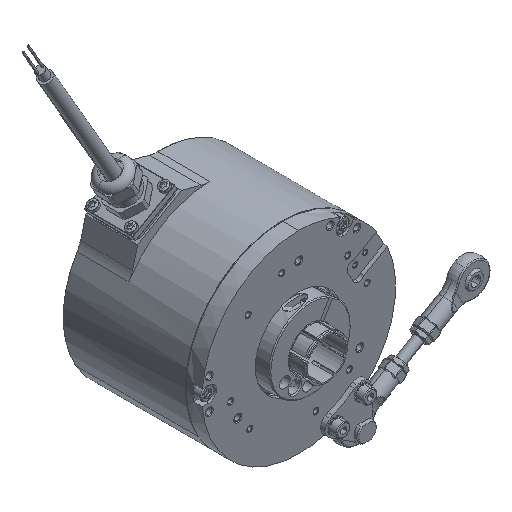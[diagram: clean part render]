
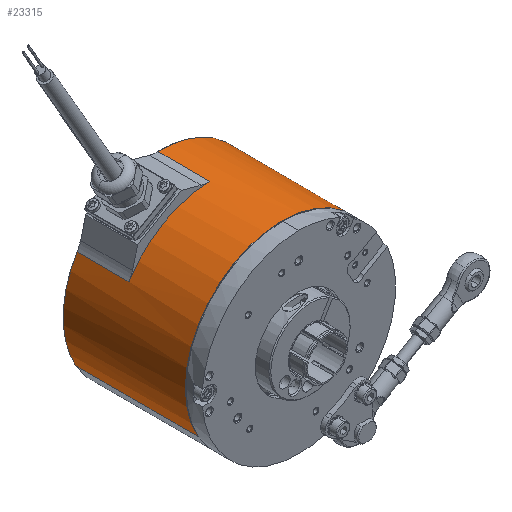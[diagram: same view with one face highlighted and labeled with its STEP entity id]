
A CAD part, isometric view. The second image highlights one B-rep face of the part: STEP entity #23315.
In plain terms, the highlighted cylindrical face has radius 50 mm (diameter 100 mm), a partial arc.
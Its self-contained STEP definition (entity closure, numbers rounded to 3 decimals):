
#1202 = CARTESIAN_POINT ( 'NONE',  ( -1.056, 71.8, 49.989 ) ) ;
#4915 = AXIS2_PLACEMENT_3D ( 'NONE', #10010, #10011, #10012 ) ;
#4919 = AXIS2_PLACEMENT_3D ( 'NONE', #10027, #10028, #10029 ) ;
#4951 = AXIS2_PLACEMENT_3D ( 'NONE', #10459, #10460, #10461 ) ;
#4952 = AXIS2_PLACEMENT_3D ( 'NONE', #10463, #10464, #10465 ) ;
#5543 = CARTESIAN_POINT ( 'NONE',  ( -42.764, 71.8, 25.909 ) ) ;
#5544 = CARTESIAN_POINT ( 'NONE',  ( -43.301, 71.8, -25. ) ) ;
#5547 = CARTESIAN_POINT ( 'NONE',  ( 43.301, 71.8, 25. ) ) ;
#5549 = CARTESIAN_POINT ( 'NONE',  ( -43.301, 8.7, -25. ) ) ;
#5550 = CARTESIAN_POINT ( 'NONE',  ( 43.301, 8.7, 25. ) ) ;
#5618 = CARTESIAN_POINT ( 'NONE',  ( -1.056, 45., 49.989 ) ) ;
#8178 = CIRCLE ( 'NONE', #4915, 50. ) ;
#8188 = CIRCLE ( 'NONE', #4919, 50. ) ;
#8328 = LINE ( 'NONE', #10451, #8334 ) ;
#8333 = CIRCLE ( 'NONE', #4951, 50. ) ;
#8334 = VECTOR ( 'NONE', #10456, 1000. ) ;
#8335 = LINE ( 'NONE', #10455, #8337 ) ;
#8336 = CIRCLE ( 'NONE', #4952, 50. ) ;
#8337 = VECTOR ( 'NONE', #10450, 1000. ) ;
#8338 = LINE ( 'NONE', #10457, #8340 ) ;
#8339 = LINE ( 'NONE', #10466, #8342 ) ;
#8340 = VECTOR ( 'NONE', #10458, 1000. ) ;
#8342 = VECTOR ( 'NONE', #10467, 1000. ) ;
#10010 = CARTESIAN_POINT ( 'NONE',  ( 0., 71.8, 0. ) ) ;
#10011 = DIRECTION ( 'NONE',  ( 0., -1., 0. ) ) ;
#10012 = DIRECTION ( 'NONE',  ( 0.866, 0., 0.5 ) ) ;
#10027 = CARTESIAN_POINT ( 'NONE',  ( 0., 8.7, 0. ) ) ;
#10028 = DIRECTION ( 'NONE',  ( 0., 1., 0. ) ) ;
#10029 = DIRECTION ( 'NONE',  ( -0.866, 0., -0.5 ) ) ;
#10450 = DIRECTION ( 'NONE',  ( 0., -1., 0. ) ) ;
#10451 = CARTESIAN_POINT ( 'NONE',  ( 43.301, 58.5, 25. ) ) ;
#10455 = CARTESIAN_POINT ( 'NONE',  ( -1.056, 58.5, 49.989 ) ) ;
#10456 = DIRECTION ( 'NONE',  ( 0., 1., 0. ) ) ;
#10457 = CARTESIAN_POINT ( 'NONE',  ( -42.764, 58.5, 25.909 ) ) ;
#10458 = DIRECTION ( 'NONE',  ( 0., 1., 0. ) ) ;
#10459 = CARTESIAN_POINT ( 'NONE',  ( 0., 71.8, 0. ) ) ;
#10460 = DIRECTION ( 'NONE',  ( 0., -1., 0. ) ) ;
#10461 = DIRECTION ( 'NONE',  ( 0.866, 0., 0.5 ) ) ;
#10463 = CARTESIAN_POINT ( 'NONE',  ( 0., 45., 0. ) ) ;
#10464 = DIRECTION ( 'NONE',  ( 0., -1., 0. ) ) ;
#10465 = DIRECTION ( 'NONE',  ( 0.866, 0., 0.5 ) ) ;
#10466 = CARTESIAN_POINT ( 'NONE',  ( -43.301, 58.5, -25. ) ) ;
#10467 = DIRECTION ( 'NONE',  ( 0., 1., 0. ) ) ;
#10862 = VERTEX_POINT ( 'NONE', #1202 ) ;
#11399 = VERTEX_POINT ( 'NONE', #14633 ) ;
#14633 = CARTESIAN_POINT ( 'NONE',  ( -42.764, 45., 25.909 ) ) ;
#23315 = ADVANCED_FACE ( 'NONE', ( #35350 ), #35359, .T. ) ;
#24600 = VERTEX_POINT ( 'NONE', #5543 ) ;
#24601 = VERTEX_POINT ( 'NONE', #5544 ) ;
#24604 = VERTEX_POINT ( 'NONE', #5547 ) ;
#24606 = VERTEX_POINT ( 'NONE', #5549 ) ;
#24607 = VERTEX_POINT ( 'NONE', #5550 ) ;
#24675 = VERTEX_POINT ( 'NONE', #5618 ) ;
#26499 = ORIENTED_EDGE ( 'NONE', *, *, #30036, .T. ) ;
#26500 = ORIENTED_EDGE ( 'NONE', *, *, #30124, .T. ) ;
#26501 = ORIENTED_EDGE ( 'NONE', *, *, #30125, .T. ) ;
#26502 = ORIENTED_EDGE ( 'NONE', *, *, #30126, .T. ) ;
#26503 = ORIENTED_EDGE ( 'NONE', *, *, #30127, .T. ) ;
#26504 = ORIENTED_EDGE ( 'NONE', *, *, #30128, .T. ) ;
#26505 = ORIENTED_EDGE ( 'NONE', *, *, #30029, .T. ) ;
#26506 = ORIENTED_EDGE ( 'NONE', *, *, #30129, .F. ) ;
#29128 = EDGE_LOOP ( 'NONE', ( #26499, #26500, #26501, #26502, #26503, #26504, #26505, #26506 ) ) ;
#30029 = EDGE_CURVE ( 'NONE', #24600, #24601, #8178, .T. ) ;
#30036 = EDGE_CURVE ( 'NONE', #24606, #24607, #8188, .T. ) ;
#30124 = EDGE_CURVE ( 'NONE', #24607, #24604, #8328, .T. ) ;
#30125 = EDGE_CURVE ( 'NONE', #24604, #10862, #8333, .T. ) ;
#30126 = EDGE_CURVE ( 'NONE', #10862, #24675, #8335, .T. ) ;
#30127 = EDGE_CURVE ( 'NONE', #24675, #11399, #8336, .T. ) ;
#30128 = EDGE_CURVE ( 'NONE', #11399, #24600, #8338, .T. ) ;
#30129 = EDGE_CURVE ( 'NONE', #24606, #24601, #8339, .T. ) ;
#34054 = AXIS2_PLACEMENT_3D ( 'NONE', #36611, #36609, #36607 ) ;
#35350 = FACE_OUTER_BOUND ( 'NONE', #29128, .T. ) ;
#35359 = CYLINDRICAL_SURFACE ( 'NONE', #34054, 50. ) ;
#36607 = DIRECTION ( 'NONE',  ( -0.866, 0., -0.5 ) ) ;
#36609 = DIRECTION ( 'NONE',  ( 0., 1., 0. ) ) ;
#36611 = CARTESIAN_POINT ( 'NONE',  ( 0., 58.5, 0. ) ) ;
